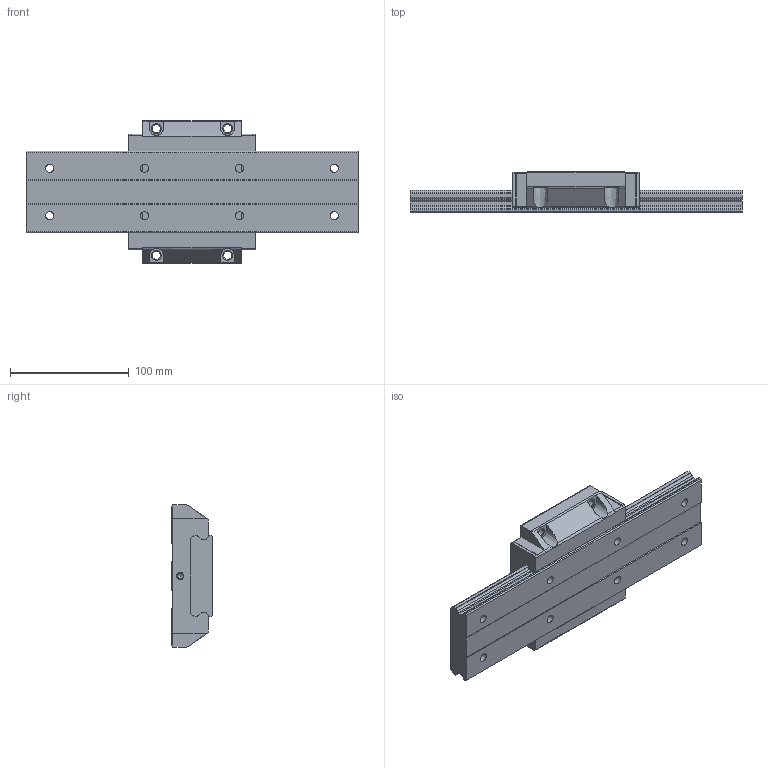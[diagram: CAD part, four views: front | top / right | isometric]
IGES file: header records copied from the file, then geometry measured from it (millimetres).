
Start section: Data from Parasolid IGES Translator 26.0.171, Copyright(c) 2006 Siemens PLM Software. All Rights Reserved.
Global section: file name: SHW35CA1SS-280L_G20_0_Without_grease_nipple_86-5_0_0_01.igs; native system: By Siemens PLM Incorporated; preprocessor: XPlus GENERIC/IGES 26.0.171; author: Noname; organization: Noname; date: 20240517.081810; units: millimetre
Bounding box: 280 x 35 x 120 mm (x, y, z)
Surface area: 97557.3 mm2 (no closed solid volume)
Topology: 0 solids, 0 shells, 218 faces, 1154 edges, 1094 vertices
Faces by surface type: extrusion 134, revolution 84
